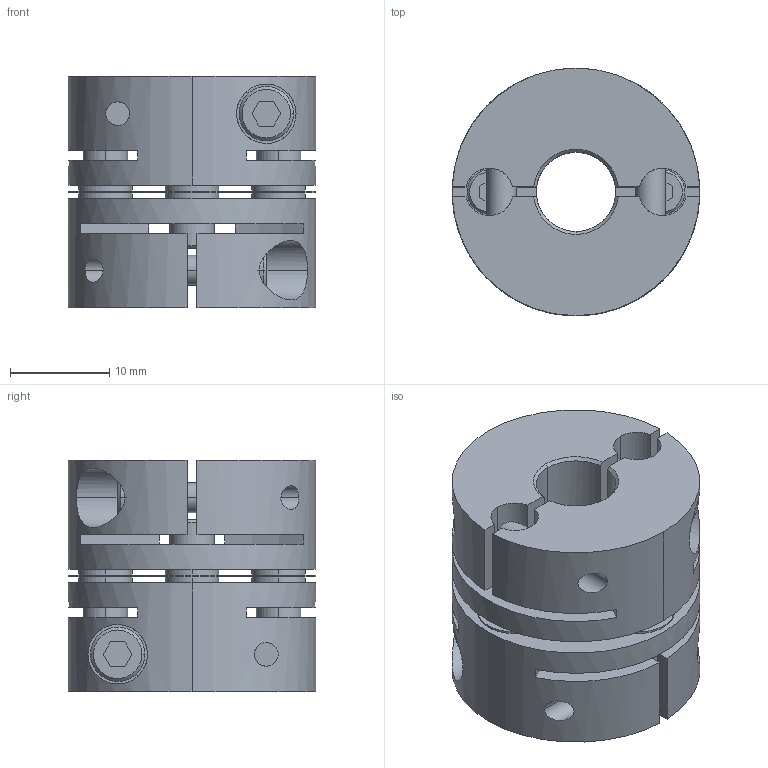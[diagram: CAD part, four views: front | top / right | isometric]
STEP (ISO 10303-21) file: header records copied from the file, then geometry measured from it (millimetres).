
FILE_DESCRIPTION((''),'2;1');
FILE_NAME('LAS-25C-8×10.stp','2011-08-10T10:28:28',(''),(''),'AutoCAD STEP 2000i','AutoCAD 2000i',', , ');
FILE_SCHEMA(('CONFIG_CONTROL_DESIGN'));
Length unit declared in the file: millimetre
Products named in the file (5): LAS-25C-6×6; 忣兜1; LA-2502-D06-1; LA-2502-D06; LAS25-ITA
Assembly tree (4 placements, depth 2):
  LAS-25C-6×6
    忣兜1
    LA-2502-D06-1
    LA-2502-D06
    LAS25-ITA
Bounding box: 25 x 25 x 23.4 mm (x, y, z)
Volume: 8156.1 mm3; surface area: 6796.8 mm2
Topology: 1 solids, 1 shells, 244 faces, 648 edges, 424 vertices
Faces by surface type: plane 112, cylinder 104, cone 28
Entity records: 8499 total; most frequent: CARTESIAN_POINT 2121, DIRECTION 1326, ORIENTED_EDGE 1296, EDGE_CURVE 648, AXIS2_PLACEMENT_3D 485, VERTEX_POINT 424, VECTOR 356, LINE 356
